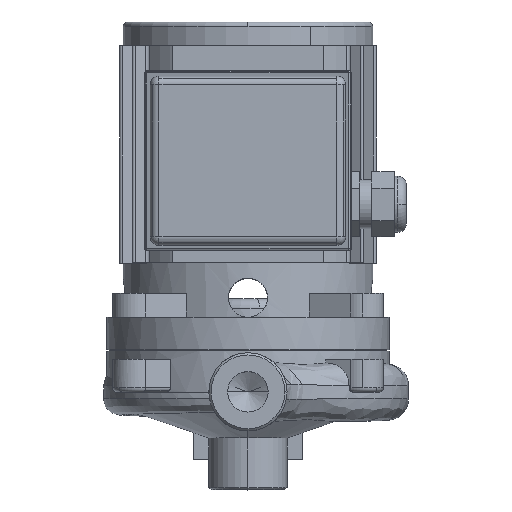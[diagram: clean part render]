
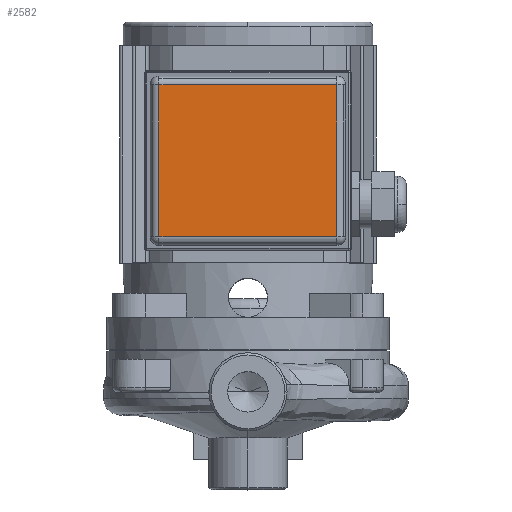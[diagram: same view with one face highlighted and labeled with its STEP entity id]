
A CAD part, top view. The second image highlights one B-rep face of the part: STEP entity #2582.
In plain terms, the highlighted planar face has unit normal (0, 0, 1).
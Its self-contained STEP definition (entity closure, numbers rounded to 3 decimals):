
#2582=ADVANCED_FACE('',(#5651),#5652,.T.);
#2836=EDGE_CURVE('',#6056,#6060,#6061,.T.);
#2842=EDGE_CURVE('',#6066,#6056,#6070,.T.);
#2848=EDGE_CURVE('',#6075,#6066,#6079,.T.);
#2878=EDGE_CURVE('',#6060,#6075,#6124,.T.);
#5651=FACE_OUTER_BOUND('',#9784,.T.);
#5652=PLANE('',#9785);
#6056=VERTEX_POINT('',#10261);
#6060=VERTEX_POINT('',#10266);
#6061=LINE('',#10267,#10268);
#6066=VERTEX_POINT('',#10275);
#6070=LINE('',#10280,#10281);
#6075=VERTEX_POINT('',#10288);
#6079=LINE('',#10293,#10294);
#6124=LINE('',#10358,#10359);
#9784=EDGE_LOOP('',(#16969,#16970,#16971,#16972));
#9785=AXIS2_PLACEMENT_3D('',#16973,#16974,#16975);
#10261=CARTESIAN_POINT('',(-118.45,13.63,147.23));
#10266=CARTESIAN_POINT('',(-118.45,83.63,147.23));
#10267=CARTESIAN_POINT('',(-118.45,13.63,147.23));
#10268=VECTOR('',#17716,1.0);
#10275=CARTESIAN_POINT('',(-36.45,13.63,147.23));
#10280=CARTESIAN_POINT('',(-36.45,13.63,147.23));
#10281=VECTOR('',#17723,1.0);
#10288=CARTESIAN_POINT('',(-36.45,83.63,147.23));
#10293=CARTESIAN_POINT('',(-36.45,83.63,147.23));
#10294=VECTOR('',#17730,1.0);
#10358=CARTESIAN_POINT('',(-118.45,83.63,147.23));
#10359=VECTOR('',#17765,1.0);
#16969=ORIENTED_EDGE('',*,*,#2848,.F.);
#16970=ORIENTED_EDGE('',*,*,#2878,.F.);
#16971=ORIENTED_EDGE('',*,*,#2836,.F.);
#16972=ORIENTED_EDGE('',*,*,#2842,.F.);
#16973=CARTESIAN_POINT('',(-122.45,87.63,147.23));
#16974=DIRECTION('',(0.0,0.0,1.0));
#16975=DIRECTION('',(1.0,0.0,0.0));
#17716=DIRECTION('',(0.0,1.0,0.));
#17723=DIRECTION('',(-1.0,0.0,0.0));
#17730=DIRECTION('',(0.0,-1.0,0.));
#17765=DIRECTION('',(1.0,0.0,0.0));
